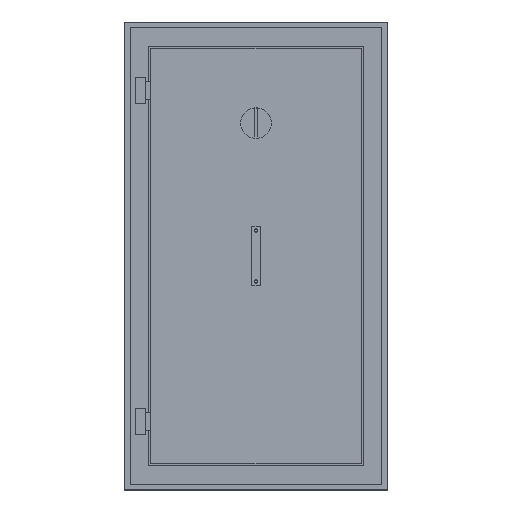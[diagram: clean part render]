
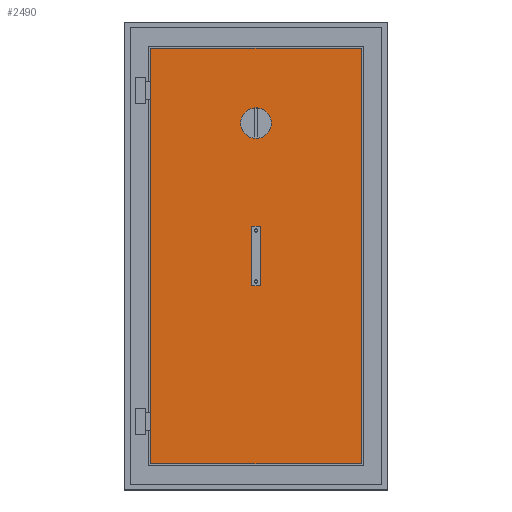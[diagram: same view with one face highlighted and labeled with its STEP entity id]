
A CAD part, top view. The second image highlights one B-rep face of the part: STEP entity #2490.
In plain terms, the highlighted planar face has unit normal (0, 0, 1).
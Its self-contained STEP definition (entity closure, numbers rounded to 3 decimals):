
#662=DIRECTION('',(0.,-1.,0.));
#663=VECTOR('',#662,2032.);
#664=CARTESIAN_POINT('',(-516.,1016.,-41.));
#665=LINE('',#664,#663);
#666=DIRECTION('',(-1.,0.,0.));
#667=VECTOR('',#666,1032.);
#668=CARTESIAN_POINT('',(516.,1016.,-41.));
#669=LINE('',#668,#667);
#670=DIRECTION('',(0.,1.,0.));
#671=VECTOR('',#670,2032.);
#672=CARTESIAN_POINT('',(516.,-1016.,-41.));
#673=LINE('',#672,#671);
#674=DIRECTION('',(1.,0.,0.));
#675=VECTOR('',#674,1032.);
#676=CARTESIAN_POINT('',(-516.,-1016.,-41.));
#677=LINE('',#676,#675);
#678=CARTESIAN_POINT('',(0.,0.,-41.));
#679=DIRECTION('',(0.,0.,1.));
#680=DIRECTION('',(1.,0.,0.));
#681=AXIS2_PLACEMENT_3D('',#678,#679,#680);
#683=CARTESIAN_POINT('',(0.,0.,-41.));
#684=DIRECTION('',(0.,0.,1.));
#685=DIRECTION('',(-1.,0.,0.));
#686=AXIS2_PLACEMENT_3D('',#683,#684,#685);
#688=CARTESIAN_POINT('',(0.,650.,-41.));
#689=DIRECTION('',(0.,0.,1.));
#690=DIRECTION('',(1.,0.,0.));
#691=AXIS2_PLACEMENT_3D('',#688,#689,#690);
#693=CARTESIAN_POINT('',(0.,650.,-41.));
#694=DIRECTION('',(0.,0.,1.));
#695=DIRECTION('',(-1.,0.,0.));
#696=AXIS2_PLACEMENT_3D('',#693,#694,#695);
#1246=CARTESIAN_POINT('',(-516.,1016.,-41.));
#1247=CARTESIAN_POINT('',(-516.,-1016.,-41.));
#1248=VERTEX_POINT('',#1246);
#1249=VERTEX_POINT('',#1247);
#1250=CARTESIAN_POINT('',(516.,-1016.,-41.));
#1251=VERTEX_POINT('',#1250);
#1252=CARTESIAN_POINT('',(516.,1016.,-41.));
#1253=VERTEX_POINT('',#1252);
#1474=CARTESIAN_POINT('',(20.,0.,-41.));
#1475=CARTESIAN_POINT('',(-20.,0.,-41.));
#1476=VERTEX_POINT('',#1474);
#1477=VERTEX_POINT('',#1475);
#1554=CARTESIAN_POINT('',(75.,650.,-41.));
#1555=CARTESIAN_POINT('',(-75.,650.,-41.));
#1556=VERTEX_POINT('',#1554);
#1557=VERTEX_POINT('',#1555);
#2467=CARTESIAN_POINT('',(0.,0.,-41.));
#2468=DIRECTION('',(0.,0.,1.));
#2469=DIRECTION('',(1.,0.,0.));
#2470=AXIS2_PLACEMENT_3D('',#2467,#2468,#2469);
#2471=PLANE('',#2470);
#2472=ORIENTED_EDGE('',*,*,#2371,.F.);
#2473=ORIENTED_EDGE('',*,*,#2413,.F.);
#2474=ORIENTED_EDGE('',*,*,#2434,.F.);
#2475=ORIENTED_EDGE('',*,*,#2454,.F.);
#2476=EDGE_LOOP('',(#2472,#2473,#2474,#2475));
#2477=FACE_OUTER_BOUND('',#2476,.F.);
#2479=ORIENTED_EDGE('',*,*,#2478,.T.);
#2481=ORIENTED_EDGE('',*,*,#2480,.T.);
#2482=EDGE_LOOP('',(#2479,#2481));
#2483=FACE_BOUND('',#2482,.F.);
#2485=ORIENTED_EDGE('',*,*,#2484,.T.);
#2487=ORIENTED_EDGE('',*,*,#2486,.T.);
#2488=EDGE_LOOP('',(#2485,#2487));
#2489=FACE_BOUND('',#2488,.F.);
#682=CIRCLE('',#681,20.);
#687=CIRCLE('',#686,20.);
#692=CIRCLE('',#691,75.);
#697=CIRCLE('',#696,75.);
#2371=EDGE_CURVE('',#1248,#1249,#665,.T.);
#2413=EDGE_CURVE('',#1253,#1248,#669,.T.);
#2434=EDGE_CURVE('',#1251,#1253,#673,.T.);
#2454=EDGE_CURVE('',#1249,#1251,#677,.T.);
#2478=EDGE_CURVE('',#1476,#1477,#682,.T.);
#2480=EDGE_CURVE('',#1477,#1476,#687,.T.);
#2484=EDGE_CURVE('',#1556,#1557,#692,.T.);
#2486=EDGE_CURVE('',#1557,#1556,#697,.T.);
#2490=ADVANCED_FACE('',(#2477,#2483,#2489),#2471,.T.);
